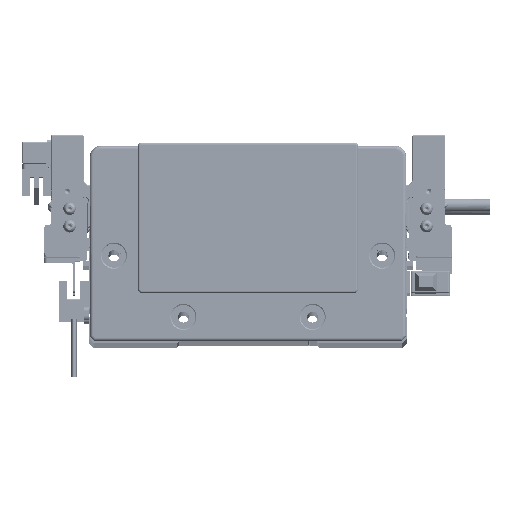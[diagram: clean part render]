
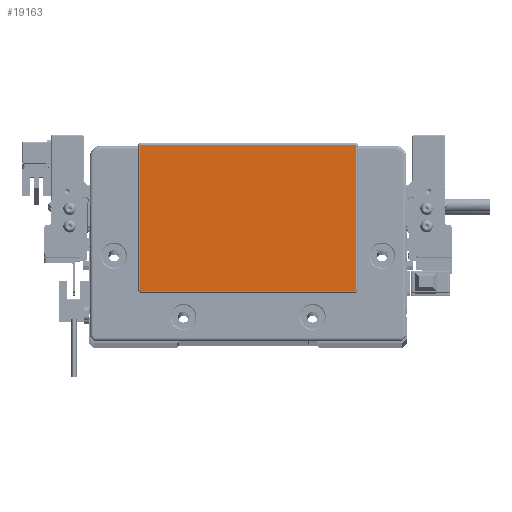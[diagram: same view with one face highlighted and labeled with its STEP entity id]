
A CAD part, top view. The second image highlights one B-rep face of the part: STEP entity #19163.
In plain terms, the highlighted planar face has unit normal (0, 0, 1) as drawn and (0, 0, -1) by its records, which use the part's own axes.
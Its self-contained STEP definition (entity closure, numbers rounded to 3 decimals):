
#1950 = CIRCLE ( 'NONE', #3649, 0.5 ) ;
#3330 = DIRECTION ( 'NONE',  ( 0., -1., 0. ) ) ;
#3649 = AXIS2_PLACEMENT_3D ( 'NONE', #48092, #106028, #98968 ) ;
#4544 = CARTESIAN_POINT ( 'NONE',  ( 48.75, 43.8, -2. ) ) ;
#7367 = DIRECTION ( 'NONE',  ( -1., 0., 0. ) ) ;
#8262 = ORIENTED_EDGE ( 'NONE', *, *, #43862, .T. ) ;
#8921 = AXIS2_PLACEMENT_3D ( 'NONE', #40938, #73990, #7367 ) ;
#11952 = VECTOR ( 'NONE', #23344, 1000. ) ;
#14159 = CARTESIAN_POINT ( 'NONE',  ( -48.75, 44.3, -2. ) ) ;
#16395 = CARTESIAN_POINT ( 'NONE',  ( 48.75, -22.3, -2. ) ) ;
#17027 = DIRECTION ( 'NONE',  ( 0., 0., -1. ) ) ;
#19163 = ADVANCED_FACE ( 'NONE', ( #51551 ), #84600, .T. ) ;
#19457 = CARTESIAN_POINT ( 'NONE',  ( 48.75, 44.3, -2. ) ) ;
#23344 = DIRECTION ( 'NONE',  ( -1., 0., 0. ) ) ;
#27693 = LINE ( 'NONE', #44483, #69783 ) ;
#29251 = ORIENTED_EDGE ( 'NONE', *, *, #73711, .T. ) ;
#30481 = EDGE_CURVE ( 'NONE', #46102, #37810, #43550, .T. ) ;
#31343 = CARTESIAN_POINT ( 'NONE',  ( -49.25, -21.8, -2. ) ) ;
#31684 = ORIENTED_EDGE ( 'NONE', *, *, #79790, .T. ) ;
#33373 = AXIS2_PLACEMENT_3D ( 'NONE', #73906, #17027, #50033 ) ;
#34463 = EDGE_CURVE ( 'NONE', #46482, #41081, #1950, .T. ) ;
#35436 = DIRECTION ( 'NONE',  ( 0., 0., -1. ) ) ;
#36008 = CARTESIAN_POINT ( 'NONE',  ( -49.25, 43.8, -2. ) ) ;
#37810 = VERTEX_POINT ( 'NONE', #31343 ) ;
#38706 = CARTESIAN_POINT ( 'NONE',  ( -49.25, 43.8, -2. ) ) ;
#39220 = CIRCLE ( 'NONE', #44435, 0.5 ) ;
#40938 = CARTESIAN_POINT ( 'NONE',  ( -48.75, -21.8, -2. ) ) ;
#41081 = VERTEX_POINT ( 'NONE', #14159 ) ;
#42194 = VERTEX_POINT ( 'NONE', #43622 ) ;
#43550 = CIRCLE ( 'NONE', #8921, 0.5 ) ;
#43622 = CARTESIAN_POINT ( 'NONE',  ( 49.25, 43.8, -2. ) ) ;
#43862 = EDGE_CURVE ( 'NONE', #41081, #106426, #53244, .T. ) ;
#44234 = ORIENTED_EDGE ( 'NONE', *, *, #30481, .T. ) ;
#44435 = AXIS2_PLACEMENT_3D ( 'NONE', #4544, #35436, #95492 ) ;
#44483 = CARTESIAN_POINT ( 'NONE',  ( 49.25, -21.8, -2. ) ) ;
#46067 = ORIENTED_EDGE ( 'NONE', *, *, #83994, .T. ) ;
#46102 = VERTEX_POINT ( 'NONE', #67587 ) ;
#46482 = VERTEX_POINT ( 'NONE', #36008 ) ;
#48092 = CARTESIAN_POINT ( 'NONE',  ( -48.75, 43.8, -2. ) ) ;
#48380 = EDGE_CURVE ( 'NONE', #67475, #46102, #81293, .T. ) ;
#49381 = LINE ( 'NONE', #38706, #69384 ) ;
#50033 = DIRECTION ( 'NONE',  ( -1., 0., 0. ) ) ;
#50721 = ORIENTED_EDGE ( 'NONE', *, *, #48380, .T. ) ;
#50938 = EDGE_CURVE ( 'NONE', #37810, #46482, #49381, .T. ) ;
#51551 = FACE_OUTER_BOUND ( 'NONE', #72961, .T. ) ;
#53244 = LINE ( 'NONE', #102509, #59923 ) ;
#53674 = DIRECTION ( 'NONE',  ( 0., 0., -1. ) ) ;
#53761 = DIRECTION ( 'NONE',  ( 1., 0., 0. ) ) ;
#59923 = VECTOR ( 'NONE', #53761, 1000. ) ;
#60231 = CARTESIAN_POINT ( 'NONE',  ( 0., 0., -2. ) ) ;
#60468 = AXIS2_PLACEMENT_3D ( 'NONE', #60231, #53674, #94848 ) ;
#67475 = VERTEX_POINT ( 'NONE', #16395 ) ;
#67587 = CARTESIAN_POINT ( 'NONE',  ( -48.75, -22.3, -2. ) ) ;
#68051 = CIRCLE ( 'NONE', #33373, 0.5 ) ;
#69384 = VECTOR ( 'NONE', #70728, 1000. ) ;
#69783 = VECTOR ( 'NONE', #3330, 1000. ) ;
#70728 = DIRECTION ( 'NONE',  ( 0., 1., 0. ) ) ;
#72961 = EDGE_LOOP ( 'NONE', ( #46067, #29251, #50721, #44234, #106513, #100628, #8262, #31684 ) ) ;
#73711 = EDGE_CURVE ( 'NONE', #77146, #67475, #68051, .T. ) ;
#73906 = CARTESIAN_POINT ( 'NONE',  ( 48.75, -21.8, -2. ) ) ;
#73990 = DIRECTION ( 'NONE',  ( 0., 0., -1. ) ) ;
#77146 = VERTEX_POINT ( 'NONE', #95514 ) ;
#79790 = EDGE_CURVE ( 'NONE', #106426, #42194, #39220, .T. ) ;
#81293 = LINE ( 'NONE', #97543, #11952 ) ;
#83994 = EDGE_CURVE ( 'NONE', #42194, #77146, #27693, .T. ) ;
#84600 = PLANE ( 'NONE',  #60468 ) ;
#94848 = DIRECTION ( 'NONE',  ( -1., 0., 0. ) ) ;
#95492 = DIRECTION ( 'NONE',  ( -1., 0., 0. ) ) ;
#95514 = CARTESIAN_POINT ( 'NONE',  ( 49.25, -21.8, -2. ) ) ;
#97543 = CARTESIAN_POINT ( 'NONE',  ( -48.75, -22.3, -2. ) ) ;
#98968 = DIRECTION ( 'NONE',  ( -1., 0., 0. ) ) ;
#100628 = ORIENTED_EDGE ( 'NONE', *, *, #34463, .T. ) ;
#102509 = CARTESIAN_POINT ( 'NONE',  ( 48.75, 44.3, -2. ) ) ;
#106028 = DIRECTION ( 'NONE',  ( 0., 0., -1. ) ) ;
#106426 = VERTEX_POINT ( 'NONE', #19457 ) ;
#106513 = ORIENTED_EDGE ( 'NONE', *, *, #50938, .T. ) ;
